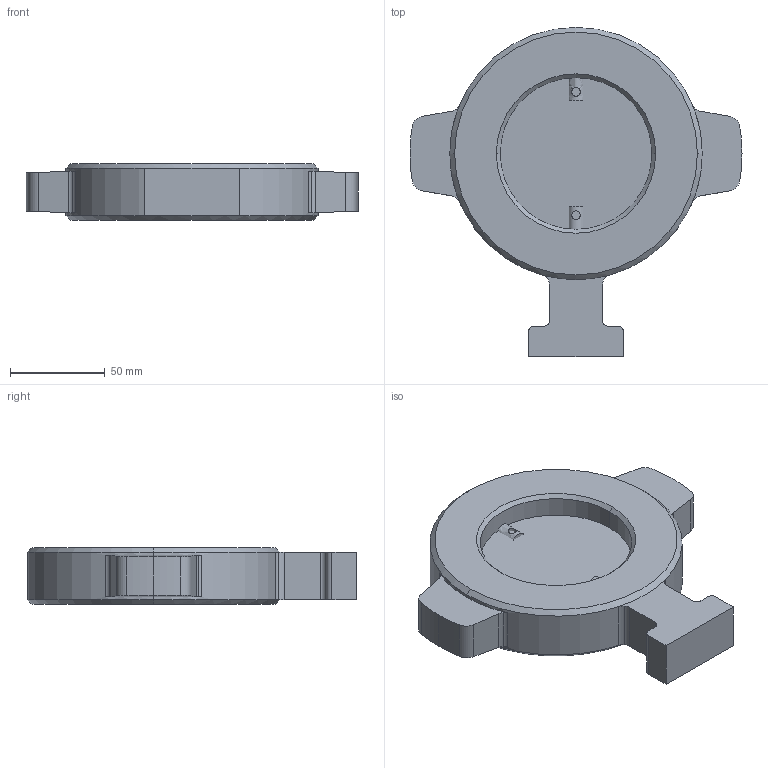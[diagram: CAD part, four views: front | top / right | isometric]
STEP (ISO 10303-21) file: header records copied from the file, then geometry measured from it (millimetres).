
FILE_DESCRIPTION((''),'2;1');
FILE_NAME('KL000004.dwg.stp','2006-10-04T11:29:38',(''),(''),'Mechanical Desktop 2006','Mechanical Desktop 2006',', , ');
FILE_SCHEMA(('AUTOMOTIVE_DESIGN { 1 2 10303 214 0 1 1 1 }'));
Length unit declared in the file: millimetre
Products named in the file (1): Product
Bounding box: 175 x 173.5 x 30 mm (x, y, z)
Volume: 363511.2 mm3; surface area: 59293.3 mm2
Topology: 4 solids, 4 shells, 72 faces, 180 edges, 116 vertices
Faces by surface type: cylinder 31, plane 19, bspline 14, cone 8
Entity records: 2525 total; most frequent: CARTESIAN_POINT 723, DIRECTION 378, ORIENTED_EDGE 360, EDGE_CURVE 180, AXIS2_PLACEMENT_3D 147, VERTEX_POINT 116, VECTOR 84, LINE 84
